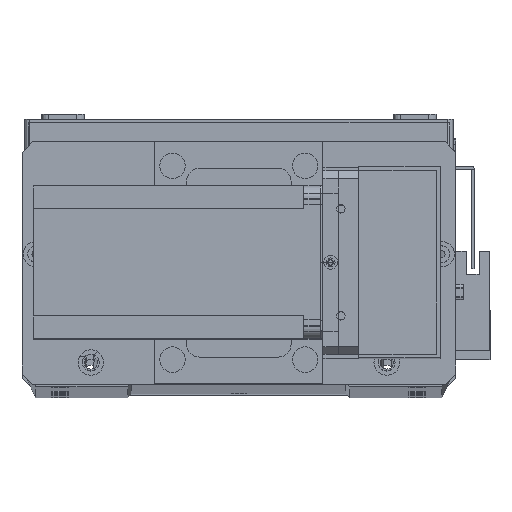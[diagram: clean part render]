
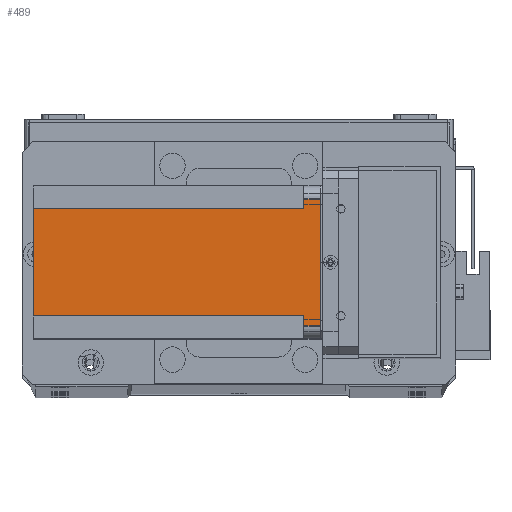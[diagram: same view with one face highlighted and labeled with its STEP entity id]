
A CAD part, top view. The second image highlights one B-rep face of the part: STEP entity #489.
In plain terms, the highlighted planar face has unit normal (0, 0, 1) as drawn and (-1, 0, 0) by its records, which use the part's own axes.
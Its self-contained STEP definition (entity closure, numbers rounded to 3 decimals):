
#363 = ORIENTED_EDGE ( 'NONE', *, *, #26423, .F. ) ;
#489 = ADVANCED_FACE ( 'NONE', ( #25800 ), #10827, .T. ) ;
#795 = CARTESIAN_POINT ( 'NONE',  ( 0., 55., -112.5 ) ) ;
#883 = VECTOR ( 'NONE', #4765, 1000. ) ;
#910 = LINE ( 'NONE', #795, #14824 ) ;
#1783 = ORIENTED_EDGE ( 'NONE', *, *, #25129, .F. ) ;
#2085 = CARTESIAN_POINT ( 'NONE',  ( 0., 51., -112.5 ) ) ;
#2517 = AXIS2_PLACEMENT_3D ( 'NONE', #31481, #31406, #31277 ) ;
#3435 = VECTOR ( 'NONE', #10982, 1000. ) ;
#3942 = ORIENTED_EDGE ( 'NONE', *, *, #26182, .F. ) ;
#4529 = CARTESIAN_POINT ( 'NONE',  ( 0., 9., -112.5 ) ) ;
#4765 = DIRECTION ( 'NONE',  ( 0., 0., 1. ) ) ;
#6909 = VECTOR ( 'NONE', #17926, 1000. ) ;
#7025 = VERTEX_POINT ( 'NONE', #17228 ) ;
#7776 = CARTESIAN_POINT ( 'NONE',  ( 0., 0., -6.5 ) ) ;
#8342 = CARTESIAN_POINT ( 'NONE',  ( 0., 55., 0. ) ) ;
#9078 = ORIENTED_EDGE ( 'NONE', *, *, #25877, .T. ) ;
#10066 = LINE ( 'NONE', #13296, #15183 ) ;
#10732 = DIRECTION ( 'NONE',  ( 0., 0., -1. ) ) ;
#10827 = PLANE ( 'NONE',  #2517 ) ;
#10982 = DIRECTION ( 'NONE',  ( 0., 0., 1. ) ) ;
#11072 = VERTEX_POINT ( 'NONE', #27367 ) ;
#12075 = LINE ( 'NONE', #7776, #25564 ) ;
#12832 = VECTOR ( 'NONE', #14422, 1000. ) ;
#13064 = CARTESIAN_POINT ( 'NONE',  ( 0., 0., -112.5 ) ) ;
#13230 = ORIENTED_EDGE ( 'NONE', *, *, #25987, .F. ) ;
#13296 = CARTESIAN_POINT ( 'NONE',  ( 0., 9., -112.5 ) ) ;
#13702 = LINE ( 'NONE', #15443, #6909 ) ;
#14422 = DIRECTION ( 'NONE',  ( 0., 1., 0. ) ) ;
#14804 = LINE ( 'NONE', #2085, #883 ) ;
#14824 = VECTOR ( 'NONE', #18747, 1000. ) ;
#15183 = VECTOR ( 'NONE', #10732, 1000. ) ;
#15311 = VERTEX_POINT ( 'NONE', #18249 ) ;
#15443 = CARTESIAN_POINT ( 'NONE',  ( 0., 0., 0. ) ) ;
#15487 = DIRECTION ( 'NONE',  ( 0., -1., 0. ) ) ;
#15574 = ORIENTED_EDGE ( 'NONE', *, *, #25732, .F. ) ;
#16051 = CARTESIAN_POINT ( 'NONE',  ( 0., 5., -112.5 ) ) ;
#16829 = ORIENTED_EDGE ( 'NONE', *, *, #25775, .T. ) ;
#16877 = VERTEX_POINT ( 'NONE', #29062 ) ;
#17228 = CARTESIAN_POINT ( 'NONE',  ( 0., 51., -6.5 ) ) ;
#17278 = VERTEX_POINT ( 'NONE', #20837 ) ;
#17510 = LINE ( 'NONE', #13064, #30229 ) ;
#17926 = DIRECTION ( 'NONE',  ( 0., -1., 0. ) ) ;
#18242 = VERTEX_POINT ( 'NONE', #4529 ) ;
#18249 = CARTESIAN_POINT ( 'NONE',  ( 0., 5., -6.5 ) ) ;
#18747 = DIRECTION ( 'NONE',  ( 0., 0., -1. ) ) ;
#19459 = LINE ( 'NONE', #26535, #12832 ) ;
#19588 = ORIENTED_EDGE ( 'NONE', *, *, #26336, .T. ) ;
#19995 = EDGE_LOOP ( 'NONE', ( #15574, #16829, #1783, #9078, #13230, #3942, #19588, #363 ) ) ;
#20837 = CARTESIAN_POINT ( 'NONE',  ( 0., 55., -6.5 ) ) ;
#23204 = VERTEX_POINT ( 'NONE', #26420 ) ;
#23926 = LINE ( 'NONE', #16051, #3435 ) ;
#24765 = VERTEX_POINT ( 'NONE', #8342 ) ;
#25129 = EDGE_CURVE ( 'NONE', #24765, #23204, #13702, .T. ) ;
#25524 = DIRECTION ( 'NONE',  ( 0., 1., 0. ) ) ;
#25564 = VECTOR ( 'NONE', #25524, 1000. ) ;
#25732 = EDGE_CURVE ( 'NONE', #15311, #11072, #12075, .T. ) ;
#25775 = EDGE_CURVE ( 'NONE', #15311, #23204, #23926, .T. ) ;
#25800 = FACE_OUTER_BOUND ( 'NONE', #19995, .T. ) ;
#25877 = EDGE_CURVE ( 'NONE', #24765, #17278, #910, .T. ) ;
#25987 = EDGE_CURVE ( 'NONE', #7025, #17278, #19459, .T. ) ;
#26182 = EDGE_CURVE ( 'NONE', #16877, #7025, #14804, .T. ) ;
#26336 = EDGE_CURVE ( 'NONE', #16877, #18242, #17510, .T. ) ;
#26420 = CARTESIAN_POINT ( 'NONE',  ( 0., 5., 0. ) ) ;
#26423 = EDGE_CURVE ( 'NONE', #11072, #18242, #10066, .T. ) ;
#26535 = CARTESIAN_POINT ( 'NONE',  ( 0., 60., -6.5 ) ) ;
#27367 = CARTESIAN_POINT ( 'NONE',  ( 0., 9., -6.5 ) ) ;
#29062 = CARTESIAN_POINT ( 'NONE',  ( 0., 51., -112.5 ) ) ;
#30229 = VECTOR ( 'NONE', #15487, 1000. ) ;
#31277 = DIRECTION ( 'NONE',  ( 0., -1., 0. ) ) ;
#31406 = DIRECTION ( 'NONE',  ( -1., 0., 0. ) ) ;
#31481 = CARTESIAN_POINT ( 'NONE',  ( 0., 0., -112.5 ) ) ;
